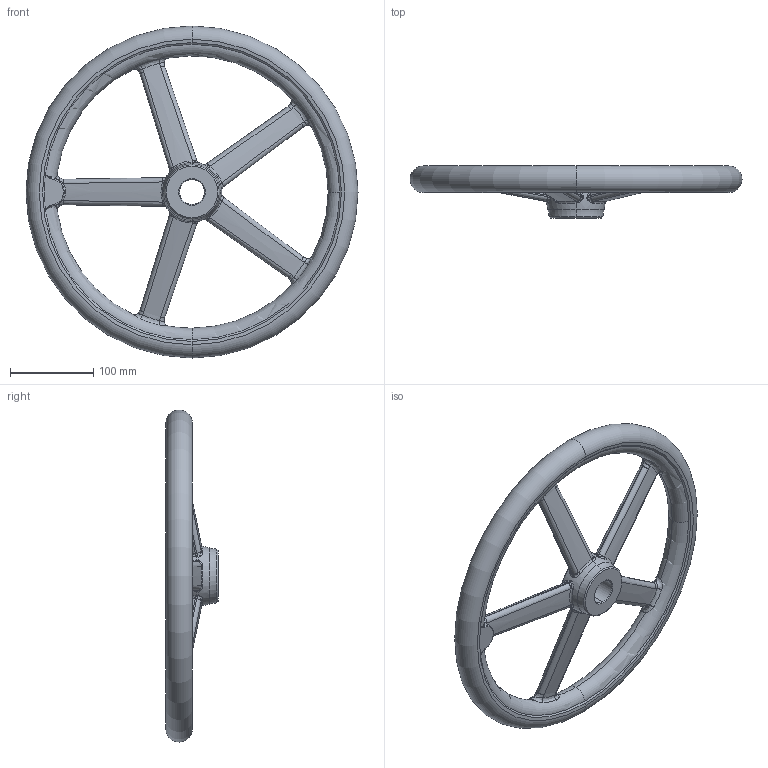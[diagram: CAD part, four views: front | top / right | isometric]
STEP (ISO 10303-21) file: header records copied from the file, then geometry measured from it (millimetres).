
FILE_DESCRIPTION (( 'STEP AP203' ), '1' );
FILE_NAME ('din950_a4_400x30.step', '2010-03-23T10:02:28', ( '_' ), ( '_' ), 'SwSTEP 2.0', 'SolidWorks 2010', '' );
FILE_SCHEMA (( 'CONFIG_CONTROL_DESIGN' ));
Length unit declared in the file: millimetre
Products named in the file (1): din950_a4_400x30
Bounding box: 400 x 63 x 400 mm (x, y, z)
Volume: 1396257.4 mm3; surface area: 189134.1 mm2
Topology: 1 solids, 1 shells, 248 faces, 613 edges, 316 vertices
Faces by surface type: bspline 196, torus 18, cone 16, plane 14, cylinder 4
Entity records: 59200 total; most frequent: CARTESIAN_POINT 54769, ORIENTED_EDGE 1138, EDGE_CURVE 569, DIRECTION 498, B_SPLINE_CURVE_WITH_KNOTS 364, VERTEX_POINT 316, EDGE_LOOP 253, ADVANCED_FACE 248
